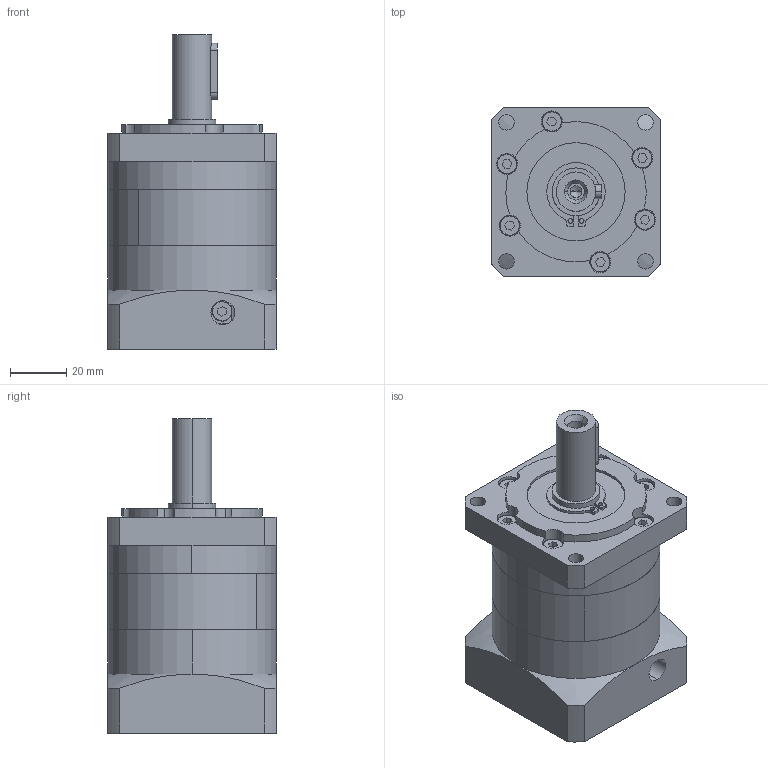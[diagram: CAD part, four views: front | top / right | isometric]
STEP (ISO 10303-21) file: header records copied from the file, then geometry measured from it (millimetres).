
FILE_DESCRIPTION (( 'STEP AP203' ), '1' );
FILE_NAME ('PLF060-10-9-40-63.STEP', '2024-04-28T06:43:52', ( 'Windows User' ), ( 'P R C' ), 'SwSTEP 2.0', 'SolidWorks 2016', '' );
FILE_SCHEMA (( 'CONFIG_CONTROL_DESIGN' ));
Length unit declared in the file: millimetre
Products named in the file (8): B-PLF60-窣諉啣-40-M4-63-LR32_1; GB／T276-94深沟球轴承61905-2RZ; 邧埴瑩 5x5x20; PLF060-10-9-40-63; 囀鞠褒蹟佪-M4℅12; B-PLF60 κｳﾝﾈｦ_ﾒｻｼｶﾄﾚｳﾝﾈｦ; B-PLF60 奻屳唳_D1-70 D2-5.5 D3-14 D4-17 D5-50 L1-30 L2-35 L3-3 A1-60 S1-3 S2-20 S3-5 S4-18 B-5 H-16 C-M5 梓袧; B-PLF60 狟屳唳-9_D6-60 D7-14 梓袧
Assembly tree (7 placements, depth 2):
  PLF060-10-9-40-63
    囀鞠褒蹟佪-M4℅12
    B-PLF60 κｳﾝﾈｦ_ﾒｻｼｶﾄﾚｳﾝﾈｦ
    B-PLF60 奻屳唳_D1-70 D2-5.5 D3-14 D4-17 D5-50 L1-30 L2-35 L3-3 A1-60 S1-3 S2-20 S3-5 S4-18 B-5 H-16 C-M5 梓袧
    B-PLF60 狟屳唳-9_D6-60 D7-14 梓袧
    B-PLF60-窣諉啣-40-M4-63-LR32_1
    GB／T276-94深沟球轴承61905-2RZ
    邧埴瑩 5x5x20
Bounding box: 60 x 60 x 112 mm (x, y, z)
Volume: 221405.9 mm3; surface area: 65266.6 mm2
Topology: 10 solids, 10 shells, 1217 faces, 3399 edges, 2243 vertices
Faces by surface type: plane 667, bspline 355, cylinder 177, cone 18
Entity records: 53170 total; most frequent: CARTESIAN_POINT 23314, ORIENTED_EDGE 6778, DIRECTION 4882, EDGE_CURVE 3389, VERTEX_POINT 2243, LINE 1826, VECTOR 1826, AXIS2_PLACEMENT_3D 1528
